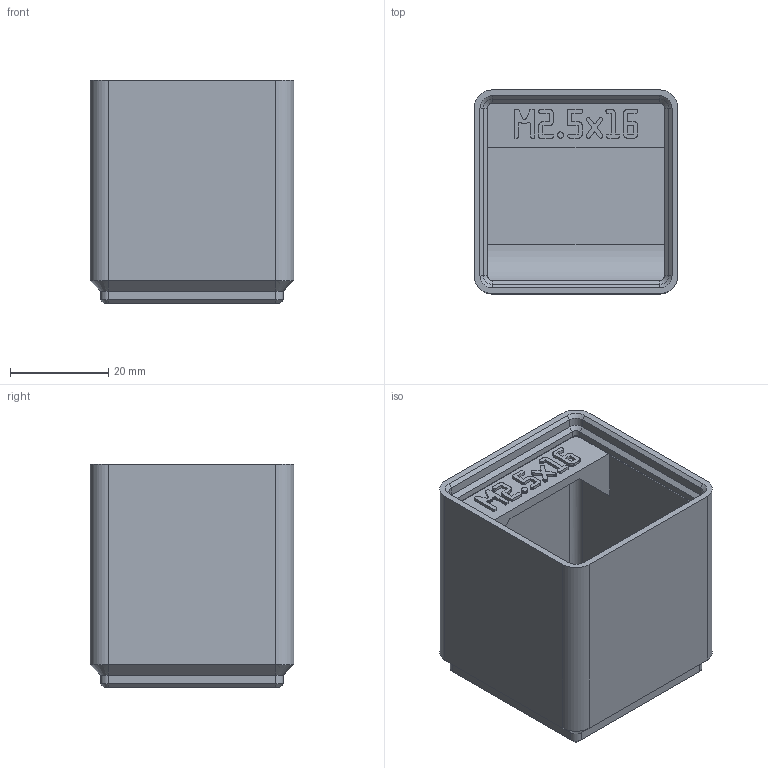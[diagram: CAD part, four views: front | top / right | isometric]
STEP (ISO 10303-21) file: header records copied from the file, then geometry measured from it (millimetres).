
FILE_DESCRIPTION(('Open CASCADE Model'),'2;1');
FILE_NAME('Open CASCADE Shape Model','2026-11-03T10:36:02',('Author'),( 'Open CASCADE'),'Open CASCADE STEP processor 8.0','build123d', 'Unknown');
FILE_SCHEMA(('AUTOMOTIVE_DESIGN { 1 0 10303 214 1 1 1 1 }'));
Products named in the file (1): COMPOUND
Bounding box: 41.5 x 41.5 x 45.55 mm (x, y, z)
Volume: 24950.8 mm3; surface area: 16526.3 mm2
Topology: 1 solids, 1 shells, 780 faces, 2247 edges, 1478 vertices
Faces by surface type: plane 739, cylinder 21, cone 20
Entity records: 52931 total; most frequent: CARTESIAN_POINT 10908, DIRECTION 6756, LINE 5079, VECTOR 5079, ORIENTED_EDGE 4494, PCURVE 4494, DEFINITIONAL_REPRESENTATION 4494, EDGE_CURVE 2247
